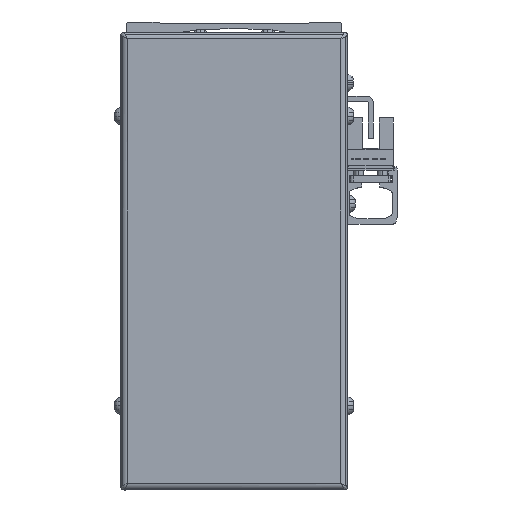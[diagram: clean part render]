
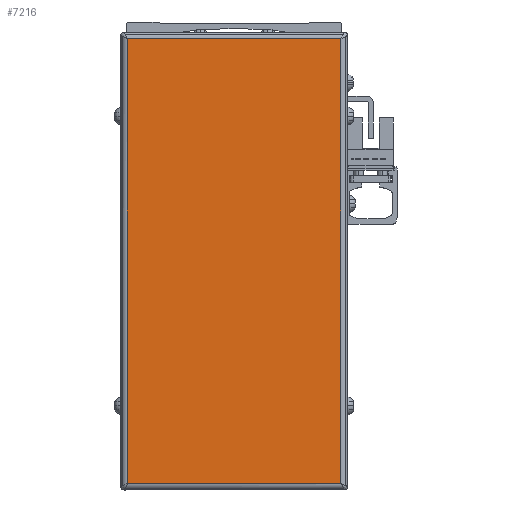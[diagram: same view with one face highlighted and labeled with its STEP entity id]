
A CAD part, front view. The second image highlights one B-rep face of the part: STEP entity #7216.
In plain terms, the highlighted planar face has unit normal (0, -1, 0).
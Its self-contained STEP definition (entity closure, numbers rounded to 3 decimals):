
#7216=ADVANCED_FACE('',(#14299),#14300,.T.);
#14299=FACE_OUTER_BOUND('',#22480,.T.);
#14300=PLANE('',#22481);
#22480=EDGE_LOOP('',(#42596,#42597,#42598,#42599));
#22481=AXIS2_PLACEMENT_3D('',#42600,#42601,#42602);
#42596=ORIENTED_EDGE('',*,*,#50448,.F.);
#42597=ORIENTED_EDGE('',*,*,#44655,.F.);
#42598=ORIENTED_EDGE('',*,*,#49688,.F.);
#42599=ORIENTED_EDGE('',*,*,#42843,.F.);
#42600=CARTESIAN_POINT('',(300.,106.,-44.));
#42601=DIRECTION('',(0.,-1.0,0.));
#42602=DIRECTION('',(0.,0.,1.0));
#42843=EDGE_CURVE('',#50919,#50921,#50922,.T.);
#44655=EDGE_CURVE('',#54092,#54094,#54095,.T.);
#49688=EDGE_CURVE('',#50921,#54092,#61272,.T.);
#50448=EDGE_CURVE('',#54094,#50919,#62087,.T.);
#50919=VERTEX_POINT('',#62679);
#50921=VERTEX_POINT('',#62681);
#50922=LINE('',#62682,#62683);
#54092=VERTEX_POINT('',#67139);
#54094=VERTEX_POINT('',#67141);
#54095=LINE('',#67142,#67143);
#61272=LINE('',#77545,#77546);
#62087=LINE('',#78586,#78587);
#62679=CARTESIAN_POINT('',(331.7,106.,22.));
#62681=CARTESIAN_POINT('',(331.7,106.,-110.));
#62682=CARTESIAN_POINT('',(331.7,106.,-44.));
#62683=VECTOR('',#79052,10.0);
#67139=CARTESIAN_POINT('',(268.3,106.,-110.));
#67141=CARTESIAN_POINT('',(268.3,106.,22.));
#67142=CARTESIAN_POINT('',(268.3,106.,-44.));
#67143=VECTOR('',#81264,10.0);
#77545=CARTESIAN_POINT('',(300.,106.,-110.));
#77546=VECTOR('',#86863,10.0);
#78586=CARTESIAN_POINT('',(300.,106.,22.));
#78587=VECTOR('',#87391,10.0);
#79052=DIRECTION('',(0.,0.,-1.0));
#81264=DIRECTION('',(0.,0.,1.0));
#86863=DIRECTION('',(-1.0,0.,0.));
#87391=DIRECTION('',(1.0,0.,0.));
